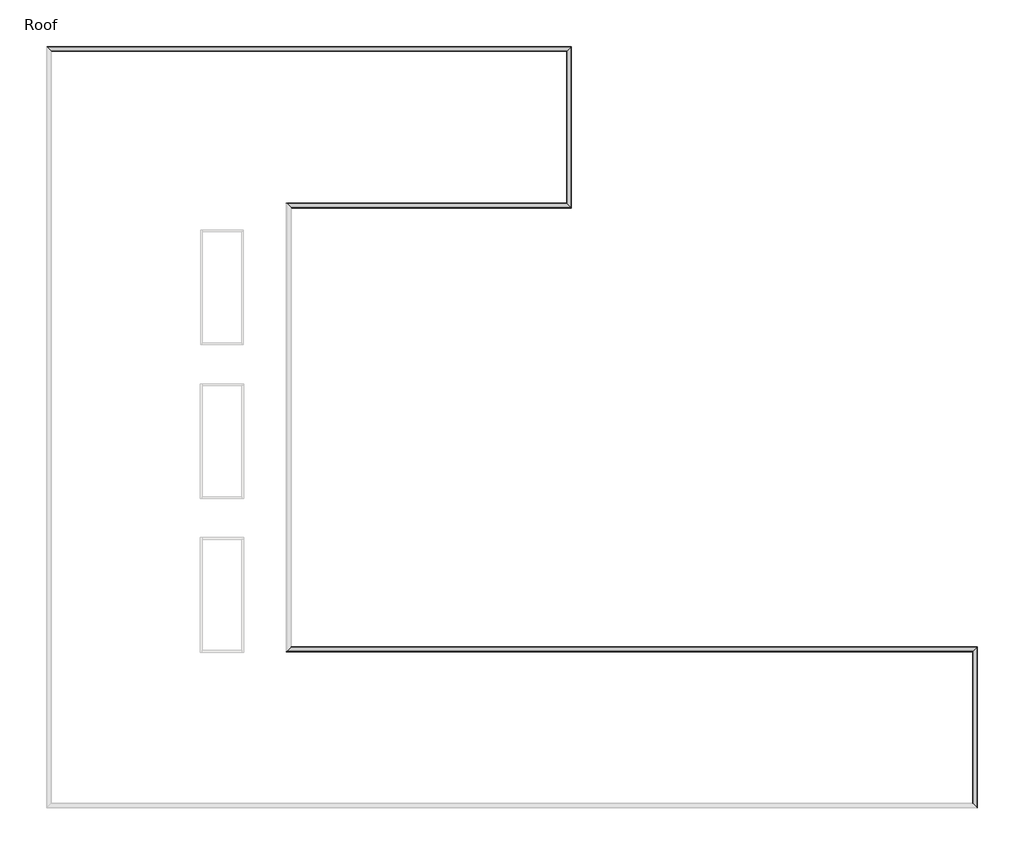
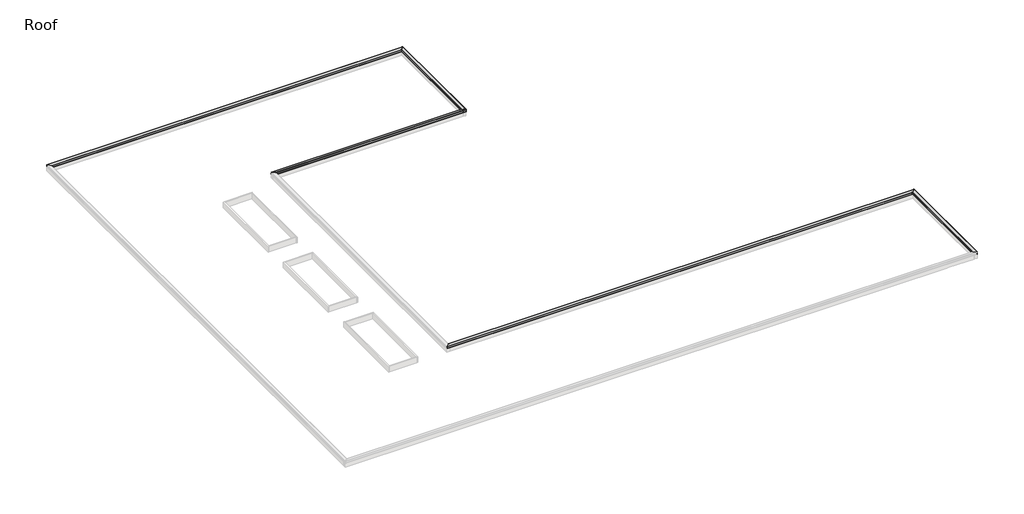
# One storey, part 2 of 2: 5 proxies.
"""IFC4 building model written with IfcOpenShell, lengths in millimetres."""

from ifc_helpers import new_model, si_unit, frame, origin, place, context, project, spatial, ellipse_curve, element, save
from ifc_brep_helpers import plane_surface, cylinder_surface, advanced_brep

model = new_model("IFC4")

# Units and contexts
model_context = context("Model", 3, world=origin())
ifc_project = project(units=[si_unit("LENGTHUNIT", "METRE", prefix="MILLI")], contexts=[model_context])

# Site, building, storey
site = spatial("IfcSite", under=ifc_project)
building = spatial("IfcBuilding", under=site)
storey = spatial("IfcBuildingStorey", under=building, Name="Roof", Elevation=10972.8)

# Proxies
placement = place(None, origin())
element("IfcBuildingElementProxy", 1, Name="Wall Sweeps", at=placement, inside=storey, context=model_context, shape_type="AdvancedBrep", body=[
    advanced_brep(
    [(37361.1457476, 54038.425, 11636.9329619), (37361.1457476, 54038.425, 11647.1824239), (37364.3207476, 54041.6, 11647.1824239), (37364.3207476, 54041.6, 11431.2824239), (37381.3349718, 54058.6142242, 11414.2681997), (37379.1062599, 54056.3855122, 11412.0394878), (37361.1457476, 54038.425, 11430.0), (37361.1457476, 54038.425, 11633.7462366), (37053.1707476, 53730.45, 11607.2537634), (37053.1707476, 53730.45, 11430.0), (37035.2102354, 53712.4894877, 11412.0394878), (37032.9651714, 53710.2444237, 11414.2845518), (37049.9957476, 53727.275, 11431.3151281), (37049.9957476, 53727.275, 11607.5268817), (37044.7672416, 53722.0464939, 11607.0771178), (37045.8777162, 53723.1569685, 11609.8131313), (37361.1457476, 42551.275, 11636.9329619), (37045.8777162, 42866.5430314, 11609.8131313), (37044.7672416, 42867.653506, 11607.0771178), (37049.9957476, 42862.425, 11607.5268817), (37049.9957476, 42862.425, 11431.3151281), (37032.9651714, 42879.4555762, 11414.2845518), (37035.2102354, 42877.2105122, 11412.0394878), (37053.1707476, 42859.25, 11430.0), (37053.1707476, 42859.25, 11607.2537634), (37361.1457476, 42551.275, 11633.7462366), (37361.1457476, 42551.275, 11430.0), (37379.1062599, 42533.3144877, 11412.0394878), (37381.3349718, 42531.0857758, 11414.2681997), (37364.3207476, 42548.1, 11431.2824239), (37364.3207476, 42548.1, 11647.1824239), (37361.1457476, 42551.275, 11647.1824239)],
    [
        (0, 1),
        (1, 2, ellipse_curve(frame((37362.7332476, 54040.0125, 11647.1824239), z_axis=(-0.7071067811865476, 0.7071067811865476, 0.0), x_axis=(0.7071067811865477, 0.7071067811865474, 0.0)), 2.245064, 1.5875)),
        (2, 3),
        (3, 4),
        (4, 5),
        (5, 6),
        (6, 7),
        (7, 8),
        (8, 9),
        (9, 10),
        (10, 11),
        (11, 12),
        (12, 13),
        (13, 14),
        (14, 15, ellipse_curve(frame((37044.7672416, 53722.0464939, 11608.6704804), z_axis=(-0.7071067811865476, 0.7071067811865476, 0.0), x_axis=(0.7071067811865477, 0.7071067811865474, 0.0)), 2.2533551, 1.5933627)),
        (15, 0),
        (16, 17),
        (17, 18, ellipse_curve(frame((37044.7672416, 42867.653506, 11608.6704804), z_axis=(-0.7071067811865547, -0.7071067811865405, 0.0), x_axis=(-0.7071067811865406, 0.7071067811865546, 0.0)), 2.2533551, 1.5933627)),
        (18, 19),
        (19, 20),
        (20, 21),
        (21, 22),
        (22, 23),
        (23, 24),
        (24, 25),
        (25, 26),
        (26, 27),
        (27, 28),
        (28, 29),
        (29, 30),
        (30, 31, ellipse_curve(frame((37362.7332476, 42549.6875, 11647.1824239), z_axis=(-0.7071067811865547, -0.7071067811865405, 0.0), x_axis=(-0.7071067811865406, 0.7071067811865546, 0.0)), 2.245064, 1.5875)),
        (31, 16),
        (0, 16),
        (31, 1),
        (30, 2),
        (29, 3),
        (28, 4),
        (27, 5),
        (26, 6),
        (25, 7),
        (24, 8),
        (23, 9),
        (22, 10),
        (21, 11),
        (20, 12),
        (19, 13),
        (18, 14),
        (17, 15),
    ],
    [
        plane_surface(frame((37354.7957476, 54032.075, 11887.2), z_axis=(-0.7071067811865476, 0.7071067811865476, 0.0), x_axis=(-0.7071067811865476, -0.7071067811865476, 0.0))),
        plane_surface(frame((37354.7957476, 42557.625, 11887.2), z_axis=(-0.7071067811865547, -0.7071067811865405, 0.0), x_axis=(-0.7071067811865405, 0.7071067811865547, 0.0))),
        plane_surface(frame((37361.1457476, 54038.425, 11636.9329619), z_axis=(-1.0, 0.0, 0.0), x_axis=(0.0, -1.0, 0.0))),
        cylinder_surface(frame((37362.7332476, 54032.075, 11647.1824239), z_axis=(0.0, 1.0, 0.0), x_axis=(-1.0, 0.0, 0.0)), 1.5875),
        plane_surface(frame((37364.3207476, 54041.6, 11647.1824239), z_axis=(1.0, 0.0, 0.0), x_axis=(0.0, -1.0, 0.0))),
        plane_surface(frame((37364.3207476, 54041.6, 11431.2824239), z_axis=(0.7071067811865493, 0.0, 0.7071067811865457), x_axis=(0.0, -1.0, 0.0))),
        plane_surface(frame((37381.3349718, 54058.6142242, 11414.2681997), z_axis=(0.7071067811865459, 0.0, -0.7071067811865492), x_axis=(0.0, -1.0, 0.0))),
        plane_surface(frame((37379.1062599, 54056.3855122, 11412.0394878), z_axis=(-0.7071067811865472, 0.0, -0.7071067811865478), x_axis=(0.0, -1.0, 0.0))),
        plane_surface(frame((37361.1457476, 54038.425, 11430.0), z_axis=(-1.0, 0.0, 0.0), x_axis=(0.0, -1.0, 0.0))),
        plane_surface(frame((37361.1457476, 54038.425, 11633.7462366), z_axis=(0.08570499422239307, 0.0, -0.9963205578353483), x_axis=(0.0, -1.0, 0.0))),
        plane_surface(frame((37053.1707476, 53730.45, 11607.2537634), z_axis=(1.0, 0.0, 0.0), x_axis=(0.0, -1.0, 0.0))),
        plane_surface(frame((37053.1707476, 53730.45, 11430.0), z_axis=(0.707106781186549, 0.0, -0.707106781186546), x_axis=(0.0, -1.0, 0.0))),
        plane_surface(frame((37035.2102354, 53712.4894877, 11412.0394878), z_axis=(-0.7071067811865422, 0.0, -0.7071067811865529), x_axis=(0.0, -1.0, 0.0))),
        plane_surface(frame((37032.9651714, 53710.2444237, 11414.2845518), z_axis=(-0.7071067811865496, 0.0, 0.7071067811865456), x_axis=(0.0, -1.0, 0.0))),
        plane_surface(frame((37049.9957476, 53727.275, 11431.3151281), z_axis=(-1.0, 0.0, 0.0), x_axis=(0.0, -1.0, 0.0))),
        plane_surface(frame((37049.9957476, 53727.275, 11607.5268817), z_axis=(0.08570499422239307, 0.0, -0.9963205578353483), x_axis=(0.0, -1.0, 0.0))),
        cylinder_surface(frame((37044.7672416, 54032.075, 11608.6704804), z_axis=(0.0, 1.0, 0.0), x_axis=(-1.0, 0.0, 0.0)), 1.5933627),
        plane_surface(frame((37045.8777162, 53723.1569685, 11609.8131313), z_axis=(-0.08570499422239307, 0.0, 0.9963205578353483), x_axis=(0.0, -1.0, 0.0))),
    ],
    [
        (0, [[1, 2, 3, 4, 5, 6, 7, 8, 9, 10, 11, 12, 13, 14, 15, 16]]),
        (1, [[17, 18, 19, 20, 21, 22, 23, 24, 25, 26, 27, 28, 29, 30, 31, 32]]),
        (2, [[-1, 33, -32, 34]]),
        (3, [[-2, -34, -31, 35]]),
        (4, [[-3, -35, -30, 36]]),
        (5, [[-4, -36, -29, 37]]),
        (6, [[-5, -37, -28, 38]]),
        (7, [[-6, -38, -27, 39]]),
        (8, [[-7, -39, -26, 40]]),
        (9, [[-8, -40, -25, 41]]),
        (10, [[-9, -41, -24, 42]]),
        (11, [[-10, -42, -23, 43]]),
        (12, [[-11, -43, -22, 44]]),
        (13, [[-12, -44, -21, 45]]),
        (14, [[-13, -45, -20, 46]]),
        (15, [[-14, -46, -19, 47]]),
        (16, [[-15, -47, -18, 48]]),
        (17, [[-16, -48, -17, -33]]),
    ],
),
])
element("IfcBuildingElementProxy", 2, Name="Wall Sweeps", at=placement, inside=storey, context=model_context, shape_type="AdvancedBrep", body=[
    advanced_brep(
    [(37361.1457476, 42551.275, 11636.9329619), (37361.1457476, 42551.275, 11647.1824239), (37364.3207476, 42548.1, 11647.1824239), (37364.3207476, 42548.1, 11431.2824239), (37381.3349718, 42531.0857758, 11414.2681997), (37379.1062599, 42533.3144877, 11412.0394878), (37361.1457476, 42551.275, 11430.0), (37361.1457476, 42551.275, 11633.7462366), (37053.1707476, 42859.25, 11607.2537634), (37053.1707476, 42859.25, 11430.0), (37035.2102354, 42877.2105122, 11412.0394878), (37032.9651714, 42879.4555762, 11414.2845518), (37049.9957476, 42862.425, 11431.3151281), (37049.9957476, 42862.425, 11607.5268817), (37044.7672416, 42867.653506, 11607.0771178), (37045.8777162, 42866.5430314, 11609.8131313), (17384.0457476, 42551.275, 11636.9329619), (17068.7777162, 42866.5430314, 11609.8131313), (17067.6672416, 42867.653506, 11607.0771178), (17072.8957476, 42862.425, 11607.5268817), (17072.8957476, 42862.425, 11431.3151281), (17055.8651714, 42879.4555762, 11414.2845518), (17058.1102354, 42877.2105122, 11412.0394878), (17076.0707476, 42859.25, 11430.0), (17076.0707476, 42859.25, 11607.2537634), (17384.0457476, 42551.275, 11633.7462366), (17384.0457476, 42551.275, 11430.0), (17402.0062599, 42533.3144877, 11412.0394878), (17404.2349718, 42531.0857758, 11414.2681997), (17387.2207476, 42548.1, 11431.2824239), (17387.2207476, 42548.1, 11647.1824239), (17384.0457476, 42551.275, 11647.1824239)],
    [
        (0, 1),
        (1, 2, ellipse_curve(frame((37362.7332476, 42549.6875, 11647.1824239), z_axis=(0.7071067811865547, 0.7071067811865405, 0.0), x_axis=(0.7071067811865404, -0.7071067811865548, 0.0)), 2.245064, 1.5875)),
        (2, 3),
        (3, 4),
        (4, 5),
        (5, 6),
        (6, 7),
        (7, 8),
        (8, 9),
        (9, 10),
        (10, 11),
        (11, 12),
        (12, 13),
        (13, 14),
        (14, 15, ellipse_curve(frame((37044.7672416, 42867.653506, 11608.6704804), z_axis=(0.7071067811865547, 0.7071067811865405, 0.0), x_axis=(0.7071067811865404, -0.7071067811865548, 0.0)), 2.2533551, 1.5933627)),
        (15, 0),
        (16, 17),
        (17, 18, ellipse_curve(frame((17067.6672416, 42867.653506, 11608.6704804), z_axis=(-0.7071067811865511, -0.707106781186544, 0.0), x_axis=(0.7071067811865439, -0.7071067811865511, 0.0)), 2.2533551, 1.5933627)),
        (18, 19),
        (19, 20),
        (20, 21),
        (21, 22),
        (22, 23),
        (23, 24),
        (24, 25),
        (25, 26),
        (26, 27),
        (27, 28),
        (28, 29),
        (29, 30),
        (30, 31, ellipse_curve(frame((17385.6332476, 42549.6875, 11647.1824239), z_axis=(-0.7071067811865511, -0.707106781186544, 0.0), x_axis=(0.7071067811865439, -0.7071067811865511, 0.0)), 2.245064, 1.5875)),
        (31, 16),
        (0, 16),
        (31, 1),
        (30, 2),
        (29, 3),
        (28, 4),
        (27, 5),
        (26, 6),
        (25, 7),
        (24, 8),
        (23, 9),
        (22, 10),
        (21, 11),
        (20, 12),
        (19, 13),
        (18, 14),
        (17, 15),
    ],
    [
        plane_surface(frame((37354.7957476, 42557.625, 11887.2), z_axis=(0.7071067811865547, 0.7071067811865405, 0.0), x_axis=(-0.7071067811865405, 0.7071067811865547, 0.0))),
        plane_surface(frame((17377.6957476, 42557.625, 11277.6), z_axis=(-0.7071067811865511, -0.707106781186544, 0.0), x_axis=(0.707106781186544, -0.7071067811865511, 0.0))),
        plane_surface(frame((37361.1457476, 42551.275, 11636.9329619), z_axis=(0.0, 1.0, 0.0), x_axis=(-1.0, 0.0, 0.0))),
        cylinder_surface(frame((37354.7957476, 42549.6875, 11647.1824239), z_axis=(1.0, 0.0, 0.0), x_axis=(0.0, 1.0, 0.0)), 1.5875),
        plane_surface(frame((37364.3207476, 42548.1, 11647.1824239), z_axis=(0.0, -1.0, 0.0), x_axis=(-1.0, 0.0, 0.0))),
        plane_surface(frame((37364.3207476, 42548.1, 11431.2824239), z_axis=(0.0, -0.7071067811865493, 0.7071067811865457), x_axis=(-1.0, 0.0, 0.0))),
        plane_surface(frame((37381.3349718, 42531.0857758, 11414.2681997), z_axis=(0.0, -0.7071067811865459, -0.7071067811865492), x_axis=(-1.0, 0.0, 0.0))),
        plane_surface(frame((37379.1062599, 42533.3144877, 11412.0394878), z_axis=(0.0, 0.7071067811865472, -0.7071067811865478), x_axis=(-1.0, 0.0, 0.0))),
        plane_surface(frame((37361.1457476, 42551.275, 11430.0), z_axis=(0.0, 1.0, 0.0), x_axis=(-1.0, 0.0, 0.0))),
        plane_surface(frame((37361.1457476, 42551.275, 11633.7462366), z_axis=(0.0, -0.08570499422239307, -0.9963205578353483), x_axis=(-1.0, 0.0, 0.0))),
        plane_surface(frame((37053.1707476, 42859.25, 11607.2537634), z_axis=(0.0, -1.0, 0.0), x_axis=(-1.0, 0.0, 0.0))),
        plane_surface(frame((37053.1707476, 42859.25, 11430.0), z_axis=(0.0, -0.707106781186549, -0.707106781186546), x_axis=(-1.0, 0.0, 0.0))),
        plane_surface(frame((37035.2102354, 42877.2105122, 11412.0394878), z_axis=(0.0, 0.7071067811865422, -0.7071067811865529), x_axis=(-1.0, 0.0, 0.0))),
        plane_surface(frame((37032.9651714, 42879.4555762, 11414.2845518), z_axis=(0.0, 0.7071067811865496, 0.7071067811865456), x_axis=(-1.0, 0.0, 0.0))),
        plane_surface(frame((37049.9957476, 42862.425, 11431.3151281), z_axis=(0.0, 1.0, 0.0), x_axis=(-1.0, 0.0, 0.0))),
        plane_surface(frame((37049.9957476, 42862.425, 11607.5268817), z_axis=(0.0, -0.08570499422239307, -0.9963205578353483), x_axis=(-1.0, 0.0, 0.0))),
        cylinder_surface(frame((37354.7957476, 42867.653506, 11608.6704804), z_axis=(1.0, 0.0, 0.0), x_axis=(0.0, 1.0, 0.0)), 1.5933627),
        plane_surface(frame((37045.8777162, 42866.5430314, 11609.8131313), z_axis=(0.0, 0.08570499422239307, 0.9963205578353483), x_axis=(-1.0, 0.0, 0.0))),
    ],
    [
        (0, [[1, 2, 3, 4, 5, 6, 7, 8, 9, 10, 11, 12, 13, 14, 15, 16]]),
        (1, [[17, 18, 19, 20, 21, 22, 23, 24, 25, 26, 27, 28, 29, 30, 31, 32]]),
        (2, [[-1, 33, -32, 34]]),
        (3, [[-2, -34, -31, 35]]),
        (4, [[-3, -35, -30, 36]]),
        (5, [[-4, -36, -29, 37]]),
        (6, [[-5, -37, -28, 38]]),
        (7, [[-6, -38, -27, 39]]),
        (8, [[-7, -39, -26, 40]]),
        (9, [[-8, -40, -25, 41]]),
        (10, [[-9, -41, -24, 42]]),
        (11, [[-10, -42, -23, 43]]),
        (12, [[-11, -43, -22, 44]]),
        (13, [[-12, -44, -21, 45]]),
        (14, [[-13, -45, -20, 46]]),
        (15, [[-14, -46, -19, 47]]),
        (16, [[-15, -47, -18, 48]]),
        (17, [[-16, -48, -17, -33]]),
    ],
),
])
element("IfcBuildingElementProxy", 3, Name="Wall Sweeps", at=placement, inside=storey, context=model_context, shape_type="AdvancedBrep", body=[
    advanced_brep(
    [(17384.0457476, 11201.325, 11636.9329619), (17384.0457476, 11201.325, 11647.1824239), (17387.2207476, 11204.5, 11647.1824239), (17387.2207476, 11204.5, 11431.2824239), (17404.2349718, 11221.5142242, 11414.2681997), (17402.0062599, 11219.2855122, 11412.0394878), (17384.0457476, 11201.325, 11430.0), (17384.0457476, 11201.325, 11633.7462366), (17076.0707476, 10893.35, 11607.2537634), (17076.0707476, 10893.35, 11430.0), (17058.1102354, 10875.3894877, 11412.0394878), (17055.8651714, 10873.1444237, 11414.2845518), (17072.8957476, 10890.175, 11431.3151281), (17072.8957476, 10890.175, 11607.5268817), (17067.6672416, 10884.9464939, 11607.0771178), (17068.7777162, 10886.0569685, 11609.8131313), (66317.1457476, 11201.325, 11636.9329619), (66001.8777162, 10886.0569685, 11609.8131313), (66000.7672416, 10884.9464939, 11607.0771178), (66005.9957476, 10890.175, 11607.5268817), (66005.9957476, 10890.175, 11431.3151281), (65988.9651714, 10873.1444237, 11414.2845518), (65991.2102354, 10875.3894877, 11412.0394878), (66009.1707476, 10893.35, 11430.0), (66009.1707476, 10893.35, 11607.2537634), (66317.1457476, 11201.325, 11633.7462366), (66317.1457476, 11201.325, 11430.0), (66335.1062599, 11219.2855122, 11412.0394878), (66337.3349718, 11221.5142242, 11414.2681997), (66320.3207476, 11204.5, 11431.2824239), (66320.3207476, 11204.5, 11647.1824239), (66317.1457476, 11201.325, 11647.1824239)],
    [
        (0, 1),
        (1, 2, ellipse_curve(frame((17385.6332476, 11202.9125, 11647.1824239), z_axis=(-0.7071067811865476, 0.7071067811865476, 0.0), x_axis=(-0.7071067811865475, -0.7071067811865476, 0.0)), 2.245064, 1.5875)),
        (2, 3),
        (3, 4),
        (4, 5),
        (5, 6),
        (6, 7),
        (7, 8),
        (8, 9),
        (9, 10),
        (10, 11),
        (11, 12),
        (12, 13),
        (13, 14),
        (14, 15, ellipse_curve(frame((17067.6672416, 10884.9464939, 11608.6704804), z_axis=(-0.7071067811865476, 0.7071067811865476, 0.0), x_axis=(-0.7071067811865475, -0.7071067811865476, 0.0)), 2.2533551, 1.5933627)),
        (15, 0),
        (16, 17),
        (17, 18, ellipse_curve(frame((66000.7672416, 10884.9464939, 11608.6704804), z_axis=(0.707106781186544, -0.7071067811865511, 0.0), x_axis=(-0.7071067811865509, -0.707106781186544, 0.0)), 2.2533551, 1.5933627)),
        (18, 19),
        (19, 20),
        (20, 21),
        (21, 22),
        (22, 23),
        (23, 24),
        (24, 25),
        (25, 26),
        (26, 27),
        (27, 28),
        (28, 29),
        (29, 30),
        (30, 31, ellipse_curve(frame((66318.7332476, 11202.9125, 11647.1824239), z_axis=(0.707106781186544, -0.7071067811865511, 0.0), x_axis=(-0.7071067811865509, -0.707106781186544, 0.0)), 2.245064, 1.5875)),
        (31, 16),
        (0, 16),
        (31, 1),
        (30, 2),
        (29, 3),
        (28, 4),
        (27, 5),
        (26, 6),
        (25, 7),
        (24, 8),
        (23, 9),
        (22, 10),
        (21, 11),
        (20, 12),
        (19, 13),
        (18, 14),
        (17, 15),
    ],
    [
        plane_surface(frame((17377.6957476, 11194.975, 11277.6), z_axis=(-0.7071067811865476, 0.7071067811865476, 0.0), x_axis=(0.7071067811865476, 0.7071067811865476, 0.0))),
        plane_surface(frame((66310.7957476, 11194.975, 11887.2), z_axis=(0.707106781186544, -0.7071067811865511, 0.0), x_axis=(-0.7071067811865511, -0.707106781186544, 0.0))),
        plane_surface(frame((17384.0457476, 11201.325, 11636.9329619), z_axis=(0.0, -1.0, 0.0), x_axis=(1.0, 0.0, 0.0))),
        cylinder_surface(frame((17377.6957476, 11202.9125, 11647.1824239), z_axis=(-1.0, 0.0, 0.0), x_axis=(0.0, -1.0, 0.0)), 1.5875),
        plane_surface(frame((17387.2207476, 11204.5, 11647.1824239), z_axis=(0.0, 1.0, 0.0), x_axis=(1.0, 0.0, 0.0))),
        plane_surface(frame((17387.2207476, 11204.5, 11431.2824239), z_axis=(0.0, 0.7071067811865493, 0.7071067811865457), x_axis=(1.0, 0.0, 0.0))),
        plane_surface(frame((17404.2349718, 11221.5142242, 11414.2681997), z_axis=(0.0, 0.7071067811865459, -0.7071067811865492), x_axis=(1.0, 0.0, 0.0))),
        plane_surface(frame((17402.0062599, 11219.2855122, 11412.0394878), z_axis=(0.0, -0.7071067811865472, -0.7071067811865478), x_axis=(1.0, 0.0, 0.0))),
        plane_surface(frame((17384.0457476, 11201.325, 11430.0), z_axis=(0.0, -1.0, 0.0), x_axis=(1.0, 0.0, 0.0))),
        plane_surface(frame((17384.0457476, 11201.325, 11633.7462366), z_axis=(0.0, 0.08570499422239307, -0.9963205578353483), x_axis=(1.0, 0.0, 0.0))),
        plane_surface(frame((17076.0707476, 10893.35, 11607.2537634), z_axis=(0.0, 1.0, 0.0), x_axis=(1.0, 0.0, 0.0))),
        plane_surface(frame((17076.0707476, 10893.35, 11430.0), z_axis=(0.0, 0.707106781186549, -0.707106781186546), x_axis=(1.0, 0.0, 0.0))),
        plane_surface(frame((17058.1102354, 10875.3894877, 11412.0394878), z_axis=(0.0, -0.7071067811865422, -0.7071067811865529), x_axis=(1.0, 0.0, 0.0))),
        plane_surface(frame((17055.8651714, 10873.1444237, 11414.2845518), z_axis=(0.0, -0.7071067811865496, 0.7071067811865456), x_axis=(1.0, 0.0, 0.0))),
        plane_surface(frame((17072.8957476, 10890.175, 11431.3151281), z_axis=(0.0, -1.0, 0.0), x_axis=(1.0, 0.0, 0.0))),
        plane_surface(frame((17072.8957476, 10890.175, 11607.5268817), z_axis=(0.0, 0.08570499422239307, -0.9963205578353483), x_axis=(1.0, 0.0, 0.0))),
        cylinder_surface(frame((17377.6957476, 10884.9464939, 11608.6704804), z_axis=(-1.0, 0.0, 0.0), x_axis=(0.0, -1.0, 0.0)), 1.5933627),
        plane_surface(frame((17068.7777162, 10886.0569685, 11609.8131313), z_axis=(0.0, -0.08570499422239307, 0.9963205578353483), x_axis=(1.0, 0.0, 0.0))),
    ],
    [
        (0, [[1, 2, 3, 4, 5, 6, 7, 8, 9, 10, 11, 12, 13, 14, 15, 16]]),
        (1, [[17, 18, 19, 20, 21, 22, 23, 24, 25, 26, 27, 28, 29, 30, 31, 32]]),
        (2, [[-1, 33, -32, 34]]),
        (3, [[-2, -34, -31, 35]]),
        (4, [[-3, -35, -30, 36]]),
        (5, [[-4, -36, -29, 37]]),
        (6, [[-5, -37, -28, 38]]),
        (7, [[-6, -38, -27, 39]]),
        (8, [[-7, -39, -26, 40]]),
        (9, [[-8, -40, -25, 41]]),
        (10, [[-9, -41, -24, 42]]),
        (11, [[-10, -42, -23, 43]]),
        (12, [[-11, -43, -22, 44]]),
        (13, [[-12, -44, -21, 45]]),
        (14, [[-13, -45, -20, 46]]),
        (15, [[-14, -46, -19, 47]]),
        (16, [[-15, -47, -18, 48]]),
        (17, [[-16, -48, -17, -33]]),
    ],
),
])
element("IfcBuildingElementProxy", 4, Name="Wall Sweeps", at=placement, inside=storey, context=model_context, shape_type="AdvancedBrep", body=[
    advanced_brep(
    [(66317.1457476, 11201.325, 11636.9329619), (66317.1457476, 11201.325, 11647.1824239), (66320.3207476, 11204.5, 11647.1824239), (66320.3207476, 11204.5, 11431.2824239), (66337.3349718, 11221.5142242, 11414.2681997), (66335.1062599, 11219.2855122, 11412.0394878), (66317.1457476, 11201.325, 11430.0), (66317.1457476, 11201.325, 11633.7462366), (66009.1707476, 10893.35, 11607.2537634), (66009.1707476, 10893.35, 11430.0), (65991.2102354, 10875.3894877, 11412.0394878), (65988.9651714, 10873.1444237, 11414.2845518), (66005.9957476, 10890.175, 11431.3151281), (66005.9957476, 10890.175, 11607.5268817), (66000.7672416, 10884.9464939, 11607.0771178), (66001.8777162, 10886.0569685, 11609.8131313), (66317.1457476, -260.425, 11636.9329619), (66001.8777162, 54.8430314, 11609.8131313), (66000.7672416, 55.953506, 11607.0771178), (66005.9957476, 50.725, 11607.5268817), (66005.9957476, 50.725, 11431.3151281), (65988.9651714, 67.7555762, 11414.2845518), (65991.2102354, 65.5105122, 11412.0394878), (66009.1707476, 47.55, 11430.0), (66009.1707476, 47.55, 11607.2537634), (66317.1457476, -260.425, 11633.7462366), (66317.1457476, -260.425, 11430.0), (66335.1062599, -278.3855123, 11412.0394878), (66337.3349718, -280.6142242, 11414.2681997), (66320.3207476, -263.6, 11431.2824239), (66320.3207476, -263.6, 11647.1824239), (66317.1457476, -260.425, 11647.1824239)],
    [
        (0, 1),
        (1, 2, ellipse_curve(frame((66318.7332476, 11202.9125, 11647.1824239), z_axis=(-0.707106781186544, 0.7071067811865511, 0.0), x_axis=(0.7071067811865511, 0.7071067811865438, 0.0)), 2.245064, 1.5875)),
        (2, 3),
        (3, 4),
        (4, 5),
        (5, 6),
        (6, 7),
        (7, 8),
        (8, 9),
        (9, 10),
        (10, 11),
        (11, 12),
        (12, 13),
        (13, 14),
        (14, 15, ellipse_curve(frame((66000.7672416, 10884.9464939, 11608.6704804), z_axis=(-0.707106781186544, 0.7071067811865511, 0.0), x_axis=(0.7071067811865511, 0.7071067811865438, 0.0)), 2.2533551, 1.5933627)),
        (15, 0),
        (16, 17),
        (17, 18, ellipse_curve(frame((66000.7672416, 55.953506, 11608.6704804), z_axis=(-0.7071067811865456, -0.7071067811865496, 0.0), x_axis=(-0.7071067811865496, 0.7071067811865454, 0.0)), 2.2533551, 1.5933627)),
        (18, 19),
        (19, 20),
        (20, 21),
        (21, 22),
        (22, 23),
        (23, 24),
        (24, 25),
        (25, 26),
        (26, 27),
        (27, 28),
        (28, 29),
        (29, 30),
        (30, 31, ellipse_curve(frame((66318.7332476, -262.0125, 11647.1824239), z_axis=(-0.7071067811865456, -0.7071067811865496, 0.0), x_axis=(-0.7071067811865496, 0.7071067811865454, 0.0)), 2.245064, 1.5875)),
        (31, 16),
        (0, 16),
        (31, 1),
        (30, 2),
        (29, 3),
        (28, 4),
        (27, 5),
        (26, 6),
        (25, 7),
        (24, 8),
        (23, 9),
        (22, 10),
        (21, 11),
        (20, 12),
        (19, 13),
        (18, 14),
        (17, 15),
    ],
    [
        plane_surface(frame((66310.7957476, 11194.975, 11887.2), z_axis=(-0.707106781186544, 0.7071067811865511, 0.0), x_axis=(-0.7071067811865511, -0.707106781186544, 0.0))),
        plane_surface(frame((66310.7957476, -254.075, 11887.2), z_axis=(-0.7071067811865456, -0.7071067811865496, 0.0), x_axis=(-0.7071067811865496, 0.7071067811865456, 0.0))),
        plane_surface(frame((66317.1457476, 11201.325, 11636.9329619), z_axis=(-1.0, 0.0, 0.0), x_axis=(0.0, -1.0, 0.0))),
        cylinder_surface(frame((66318.7332476, 11194.975, 11647.1824239), z_axis=(0.0, 1.0, 0.0), x_axis=(-1.0, 0.0, 0.0)), 1.5875),
        plane_surface(frame((66320.3207476, 11204.5, 11647.1824239), z_axis=(1.0, 0.0, 0.0), x_axis=(0.0, -1.0, 0.0))),
        plane_surface(frame((66320.3207476, 11204.5, 11431.2824239), z_axis=(0.7071067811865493, 0.0, 0.7071067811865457), x_axis=(0.0, -1.0, 0.0))),
        plane_surface(frame((66337.3349718, 11221.5142242, 11414.2681997), z_axis=(0.7071067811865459, 0.0, -0.7071067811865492), x_axis=(0.0, -1.0, 0.0))),
        plane_surface(frame((66335.1062599, 11219.2855122, 11412.0394878), z_axis=(-0.7071067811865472, 0.0, -0.7071067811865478), x_axis=(0.0, -1.0, 0.0))),
        plane_surface(frame((66317.1457476, 11201.325, 11430.0), z_axis=(-1.0, 0.0, 0.0), x_axis=(0.0, -1.0, 0.0))),
        plane_surface(frame((66317.1457476, 11201.325, 11633.7462366), z_axis=(0.08570499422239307, 0.0, -0.9963205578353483), x_axis=(0.0, -1.0, 0.0))),
        plane_surface(frame((66009.1707476, 10893.35, 11607.2537634), z_axis=(1.0, 0.0, 0.0), x_axis=(0.0, -1.0, 0.0))),
        plane_surface(frame((66009.1707476, 10893.35, 11430.0), z_axis=(0.707106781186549, 0.0, -0.707106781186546), x_axis=(0.0, -1.0, 0.0))),
        plane_surface(frame((65991.2102354, 10875.3894877, 11412.0394878), z_axis=(-0.7071067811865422, 0.0, -0.7071067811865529), x_axis=(0.0, -1.0, 0.0))),
        plane_surface(frame((65988.9651714, 10873.1444237, 11414.2845518), z_axis=(-0.7071067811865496, 0.0, 0.7071067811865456), x_axis=(0.0, -1.0, 0.0))),
        plane_surface(frame((66005.9957476, 10890.175, 11431.3151281), z_axis=(-1.0, 0.0, 0.0), x_axis=(0.0, -1.0, 0.0))),
        plane_surface(frame((66005.9957476, 10890.175, 11607.5268817), z_axis=(0.08570499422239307, 0.0, -0.9963205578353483), x_axis=(0.0, -1.0, 0.0))),
        cylinder_surface(frame((66000.7672416, 11194.975, 11608.6704804), z_axis=(0.0, 1.0, 0.0), x_axis=(-1.0, 0.0, 0.0)), 1.5933627),
        plane_surface(frame((66001.8777162, 10886.0569685, 11609.8131313), z_axis=(-0.08570499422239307, 0.0, 0.9963205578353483), x_axis=(0.0, -1.0, 0.0))),
    ],
    [
        (0, [[1, 2, 3, 4, 5, 6, 7, 8, 9, 10, 11, 12, 13, 14, 15, 16]]),
        (1, [[17, 18, 19, 20, 21, 22, 23, 24, 25, 26, 27, 28, 29, 30, 31, 32]]),
        (2, [[-1, 33, -32, 34]]),
        (3, [[-2, -34, -31, 35]]),
        (4, [[-3, -35, -30, 36]]),
        (5, [[-4, -36, -29, 37]]),
        (6, [[-5, -37, -28, 38]]),
        (7, [[-6, -38, -27, 39]]),
        (8, [[-7, -39, -26, 40]]),
        (9, [[-8, -40, -25, 41]]),
        (10, [[-9, -41, -24, 42]]),
        (11, [[-10, -42, -23, 43]]),
        (12, [[-11, -43, -22, 44]]),
        (13, [[-12, -44, -21, 45]]),
        (14, [[-13, -45, -20, 46]]),
        (15, [[-14, -46, -19, 47]]),
        (16, [[-15, -47, -18, 48]]),
        (17, [[-16, -48, -17, -33]]),
    ],
),
])
element("IfcBuildingElementProxy", 5, Name="Wall Sweeps", at=placement, inside=storey, context=model_context, shape_type="AdvancedBrep", body=[
    advanced_brep(
    [(-34.0042524, 54038.425, 11636.9329619), (-34.0042524, 54038.425, 11647.1824239), (-37.1792524, 54041.6, 11647.1824239), (-37.1792524, 54041.6, 11431.2824239), (-54.1934766, 54058.6142242, 11414.2681997), (-51.9647646, 54056.3855122, 11412.0394878), (-34.0042524, 54038.425, 11430.0), (-34.0042524, 54038.425, 11633.7462366), (273.9707476, 53730.45, 11607.2537634), (273.9707476, 53730.45, 11430.0), (291.9312599, 53712.4894877, 11412.0394878), (294.1763239, 53710.2444237, 11414.2845518), (277.1457476, 53727.275, 11431.3151281), (277.1457476, 53727.275, 11607.5268817), (282.3742537, 53722.0464939, 11607.0771178), (281.2637791, 53723.1569685, 11609.8131313), (37361.1457476, 54038.425, 11636.9329619), (37045.8777162, 53723.1569685, 11609.8131313), (37044.7672416, 53722.0464939, 11607.0771178), (37049.9957476, 53727.275, 11607.5268817), (37049.9957476, 53727.275, 11431.3151281), (37032.9651714, 53710.2444237, 11414.2845518), (37035.2102354, 53712.4894877, 11412.0394878), (37053.1707476, 53730.45, 11430.0), (37053.1707476, 53730.45, 11607.2537634), (37361.1457476, 54038.425, 11633.7462366), (37361.1457476, 54038.425, 11430.0), (37379.1062599, 54056.3855122, 11412.0394878), (37381.3349718, 54058.6142242, 11414.2681997), (37364.3207476, 54041.6, 11431.2824239), (37364.3207476, 54041.6, 11647.1824239), (37361.1457476, 54038.425, 11647.1824239)],
    [
        (0, 1),
        (1, 2, ellipse_curve(frame((-35.5917524, 54040.0125, 11647.1824239), z_axis=(-0.7071067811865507, -0.7071067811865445, 0.0), x_axis=(-0.7071067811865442, 0.7071067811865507, 0.0)), 2.245064, 1.5875)),
        (2, 3),
        (3, 4),
        (4, 5),
        (5, 6),
        (6, 7),
        (7, 8),
        (8, 9),
        (9, 10),
        (10, 11),
        (11, 12),
        (12, 13),
        (13, 14),
        (14, 15, ellipse_curve(frame((282.3742537, 53722.0464939, 11608.6704804), z_axis=(-0.7071067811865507, -0.7071067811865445, 0.0), x_axis=(-0.7071067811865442, 0.7071067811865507, 0.0)), 2.2533551, 1.5933627)),
        (15, 0),
        (16, 17),
        (17, 18, ellipse_curve(frame((37044.7672416, 53722.0464939, 11608.6704804), z_axis=(0.7071067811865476, -0.7071067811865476, 0.0), x_axis=(-0.7071067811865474, -0.7071067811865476, 0.0)), 2.2533551, 1.5933627)),
        (18, 19),
        (19, 20),
        (20, 21),
        (21, 22),
        (22, 23),
        (23, 24),
        (24, 25),
        (25, 26),
        (26, 27),
        (27, 28),
        (28, 29),
        (29, 30),
        (30, 31, ellipse_curve(frame((37362.7332476, 54040.0125, 11647.1824239), z_axis=(0.7071067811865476, -0.7071067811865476, 0.0), x_axis=(-0.7071067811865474, -0.7071067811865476, 0.0)), 2.245064, 1.5875)),
        (31, 16),
        (0, 16),
        (31, 1),
        (30, 2),
        (29, 3),
        (28, 4),
        (27, 5),
        (26, 6),
        (25, 7),
        (24, 8),
        (23, 9),
        (22, 10),
        (21, 11),
        (20, 12),
        (19, 13),
        (18, 14),
        (17, 15),
    ],
    [
        plane_surface(frame((-27.6542524, 54032.075, 11887.2), z_axis=(-0.7071067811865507, -0.7071067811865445, 0.0), x_axis=(0.7071067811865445, -0.7071067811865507, 0.0))),
        plane_surface(frame((37354.7957476, 54032.075, 11887.2), z_axis=(0.7071067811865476, -0.7071067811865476, 0.0), x_axis=(-0.7071067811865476, -0.7071067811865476, 0.0))),
        plane_surface(frame((-34.0042524, 54038.425, 11636.9329619), z_axis=(0.0, -1.0, 0.0), x_axis=(1.0, 0.0, 0.0))),
        cylinder_surface(frame((-27.6542524, 54040.0125, 11647.1824239), z_axis=(-1.0, 0.0, 0.0), x_axis=(0.0, -1.0, 0.0)), 1.5875),
        plane_surface(frame((-37.1792524, 54041.6, 11647.1824239), z_axis=(0.0, 1.0, 0.0), x_axis=(1.0, 0.0, 0.0))),
        plane_surface(frame((-37.1792524, 54041.6, 11431.2824239), z_axis=(0.0, 0.7071067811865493, 0.7071067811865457), x_axis=(1.0, 0.0, 0.0))),
        plane_surface(frame((-54.1934766, 54058.6142242, 11414.2681997), z_axis=(0.0, 0.7071067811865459, -0.7071067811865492), x_axis=(1.0, 0.0, 0.0))),
        plane_surface(frame((-51.9647646, 54056.3855122, 11412.0394878), z_axis=(0.0, -0.7071067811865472, -0.7071067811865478), x_axis=(1.0, 0.0, 0.0))),
        plane_surface(frame((-34.0042524, 54038.425, 11430.0), z_axis=(0.0, -1.0, 0.0), x_axis=(1.0, 0.0, 0.0))),
        plane_surface(frame((-34.0042524, 54038.425, 11633.7462366), z_axis=(0.0, 0.08570499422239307, -0.9963205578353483), x_axis=(1.0, 0.0, 0.0))),
        plane_surface(frame((273.9707476, 53730.45, 11607.2537634), z_axis=(0.0, 1.0, 0.0), x_axis=(1.0, 0.0, 0.0))),
        plane_surface(frame((273.9707476, 53730.45, 11430.0), z_axis=(0.0, 0.707106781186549, -0.707106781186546), x_axis=(1.0, 0.0, 0.0))),
        plane_surface(frame((291.9312599, 53712.4894877, 11412.0394878), z_axis=(0.0, -0.7071067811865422, -0.7071067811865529), x_axis=(1.0, 0.0, 0.0))),
        plane_surface(frame((294.1763239, 53710.2444237, 11414.2845518), z_axis=(0.0, -0.7071067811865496, 0.7071067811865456), x_axis=(1.0, 0.0, 0.0))),
        plane_surface(frame((277.1457476, 53727.275, 11431.3151281), z_axis=(0.0, -1.0, 0.0), x_axis=(1.0, 0.0, 0.0))),
        plane_surface(frame((277.1457476, 53727.275, 11607.5268817), z_axis=(0.0, 0.08570499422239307, -0.9963205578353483), x_axis=(1.0, 0.0, 0.0))),
        cylinder_surface(frame((-27.6542524, 53722.0464939, 11608.6704804), z_axis=(-1.0, 0.0, 0.0), x_axis=(0.0, -1.0, 0.0)), 1.5933627),
        plane_surface(frame((281.2637791, 53723.1569685, 11609.8131313), z_axis=(0.0, -0.08570499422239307, 0.9963205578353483), x_axis=(1.0, 0.0, 0.0))),
    ],
    [
        (0, [[1, 2, 3, 4, 5, 6, 7, 8, 9, 10, 11, 12, 13, 14, 15, 16]]),
        (1, [[17, 18, 19, 20, 21, 22, 23, 24, 25, 26, 27, 28, 29, 30, 31, 32]]),
        (2, [[-1, 33, -32, 34]]),
        (3, [[-2, -34, -31, 35]]),
        (4, [[-3, -35, -30, 36]]),
        (5, [[-4, -36, -29, 37]]),
        (6, [[-5, -37, -28, 38]]),
        (7, [[-6, -38, -27, 39]]),
        (8, [[-7, -39, -26, 40]]),
        (9, [[-8, -40, -25, 41]]),
        (10, [[-9, -41, -24, 42]]),
        (11, [[-10, -42, -23, 43]]),
        (12, [[-11, -43, -22, 44]]),
        (13, [[-12, -44, -21, 45]]),
        (14, [[-13, -45, -20, 46]]),
        (15, [[-14, -46, -19, 47]]),
        (16, [[-15, -47, -18, 48]]),
        (17, [[-16, -48, -17, -33]]),
    ],
),
])

save(model, "model.ifc")
